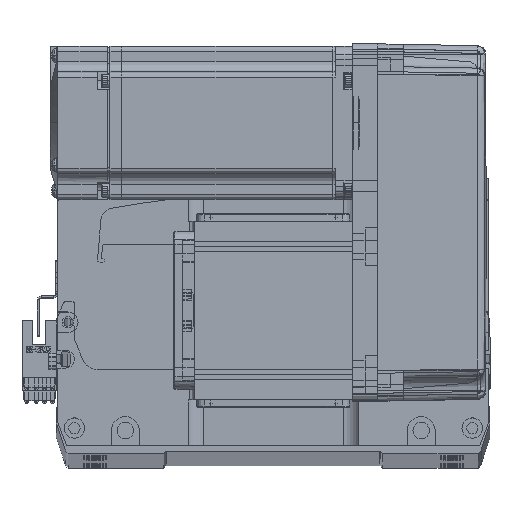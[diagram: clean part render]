
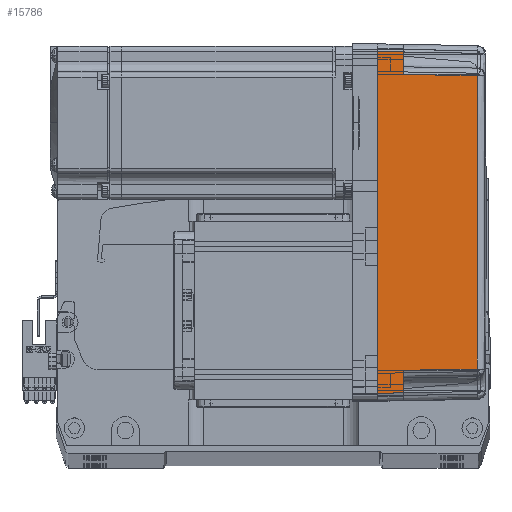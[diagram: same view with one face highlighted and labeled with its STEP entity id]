
A CAD part, top view. The second image highlights one B-rep face of the part: STEP entity #15786.
In plain terms, the highlighted planar face has unit normal (0.018, 0, 1) as drawn and (0, -1, 0.017) by its records, which use the part's own axes.
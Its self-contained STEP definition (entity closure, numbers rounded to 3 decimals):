
#1229 = VECTOR ( 'NONE', #16470, 1000. ) ;
#4217 = DIRECTION ( 'NONE',  ( -0.017, 0.017, 1. ) ) ;
#5841 = VECTOR ( 'NONE', #61634, 1000. ) ;
#6023 = CARTESIAN_POINT ( 'NONE',  ( 70., -35.825, 10. ) ) ;
#6129 = CARTESIAN_POINT ( 'NONE',  ( -57.495, -35.32, 38.985 ) ) ;
#6649 = EDGE_CURVE ( 'NONE', #69346, #47593, #7138, .T. ) ;
#6815 = LINE ( 'NONE', #25391, #44035 ) ;
#6838 = DIRECTION ( 'NONE',  ( -0.017, -0.017, -1. ) ) ;
#7138 = LINE ( 'NONE', #6129, #33931 ) ;
#7995 = FACE_OUTER_BOUND ( 'NONE', #10151, .T. ) ;
#8842 = EDGE_CURVE ( 'NONE', #18952, #46643, #25757, .T. ) ;
#9818 = DIRECTION ( 'NONE',  ( 0., -0.017, -1. ) ) ;
#10151 = EDGE_LOOP ( 'NONE', ( #27607, #33577, #43757, #28186, #68332, #31736, #59833, #13624 ) ) ;
#11106 = EDGE_CURVE ( 'NONE', #41783, #14207, #60091, .T. ) ;
#13624 = ORIENTED_EDGE ( 'NONE', *, *, #11106, .F. ) ;
#14207 = VERTEX_POINT ( 'NONE', #18953 ) ;
#14654 = CARTESIAN_POINT ( 'NONE',  ( 70., -36., 0. ) ) ;
#14749 = DIRECTION ( 'NONE',  ( -1., 0., 0. ) ) ;
#15375 = CARTESIAN_POINT ( 'NONE',  ( 66.826, -35.825, 10. ) ) ;
#15717 = CARTESIAN_POINT ( 'NONE',  ( -58., -35.825, 10. ) ) ;
#15786 = ADVANCED_FACE ( 'NONE', ( #7995 ), #59109, .T. ) ;
#16470 = DIRECTION ( 'NONE',  ( -1., 0., 0. ) ) ;
#17193 = VERTEX_POINT ( 'NONE', #64363 ) ;
#18363 = CARTESIAN_POINT ( 'NONE',  ( -57.495, -35.32, 38.985 ) ) ;
#18952 = VERTEX_POINT ( 'NONE', #15375 ) ;
#18953 = CARTESIAN_POINT ( 'NONE',  ( -67., -36., 0. ) ) ;
#20470 = CARTESIAN_POINT ( 'NONE',  ( -57.495, -35.32, 38.985 ) ) ;
#20873 = CARTESIAN_POINT ( 'NONE',  ( 58., -35.825, 10. ) ) ;
#24310 = VECTOR ( 'NONE', #46373, 1000. ) ;
#25391 = CARTESIAN_POINT ( 'NONE',  ( 70., -35.825, 10. ) ) ;
#25757 = LINE ( 'NONE', #6023, #5841 ) ;
#27607 = ORIENTED_EDGE ( 'NONE', *, *, #58511, .T. ) ;
#28186 = ORIENTED_EDGE ( 'NONE', *, *, #35837, .T. ) ;
#29410 = CARTESIAN_POINT ( 'NONE',  ( 19.165, -35.316, 39.181 ) ) ;
#31736 = ORIENTED_EDGE ( 'NONE', *, *, #38300, .T. ) ;
#32311 = AXIS2_PLACEMENT_3D ( 'NONE', #14654, #37624, #9818 ) ;
#33577 = ORIENTED_EDGE ( 'NONE', *, *, #8842, .T. ) ;
#33931 = VECTOR ( 'NONE', #6838, 1000. ) ;
#35837 = EDGE_CURVE ( 'NONE', #17193, #69346, #55356, .T. ) ;
#37341 = EDGE_CURVE ( 'NONE', #46643, #17193, #45980, .T. ) ;
#37624 = DIRECTION ( 'NONE',  ( 0., -1., 0.017 ) ) ;
#37852 = CARTESIAN_POINT ( 'NONE',  ( 67., -36., 0. ) ) ;
#38300 = EDGE_CURVE ( 'NONE', #47593, #55239, #6815, .T. ) ;
#40360 = CARTESIAN_POINT ( 'NONE',  ( 58., -35.825, 10. ) ) ;
#41783 = VERTEX_POINT ( 'NONE', #63962 ) ;
#41894 = CARTESIAN_POINT ( 'NONE',  ( -66.826, -35.825, 10. ) ) ;
#43694 = LINE ( 'NONE', #37852, #60108 ) ;
#43757 = ORIENTED_EDGE ( 'NONE', *, *, #37341, .T. ) ;
#44016 = CARTESIAN_POINT ( 'NONE',  ( 0., -36., 0. ) ) ;
#44035 = VECTOR ( 'NONE', #14749, 1000. ) ;
#45797 = EDGE_CURVE ( 'NONE', #14207, #55239, #71617, .T. ) ;
#45980 = LINE ( 'NONE', #40360, #24310 ) ;
#46169 = CARTESIAN_POINT ( 'NONE',  ( 57.495, -35.32, 38.985 ) ) ;
#46373 = DIRECTION ( 'NONE',  ( -0.017, 0.017, 1. ) ) ;
#46643 = VERTEX_POINT ( 'NONE', #20873 ) ;
#47593 = VERTEX_POINT ( 'NONE', #15717 ) ;
#50005 = CARTESIAN_POINT ( 'NONE',  ( -66.959, -35.958, 2.39 ) ) ;
#55239 = VERTEX_POINT ( 'NONE', #41894 ) ;
#55356 = B_SPLINE_CURVE_WITH_KNOTS ( 'NONE', 3,
 ( #46169, #29410, #68180, #18363 ),
 .UNSPECIFIED., .F., .F.,
 ( 4, 4 ),
 ( 0., 1. ),
 .UNSPECIFIED. ) ;
#56960 = VECTOR ( 'NONE', #61380, 1000. ) ;
#58511 = EDGE_CURVE ( 'NONE', #41783, #18952, #43694, .T. ) ;
#59109 = PLANE ( 'NONE',  #32311 ) ;
#59833 = ORIENTED_EDGE ( 'NONE', *, *, #45797, .F. ) ;
#60091 = LINE ( 'NONE', #44016, #1229 ) ;
#60108 = VECTOR ( 'NONE', #4217, 1000. ) ;
#61380 = DIRECTION ( 'NONE',  ( 0.017, 0.017, 1. ) ) ;
#61634 = DIRECTION ( 'NONE',  ( -1., 0., 0. ) ) ;
#63962 = CARTESIAN_POINT ( 'NONE',  ( 67., -36., 0. ) ) ;
#64363 = CARTESIAN_POINT ( 'NONE',  ( 57.495, -35.32, 38.985 ) ) ;
#68180 = CARTESIAN_POINT ( 'NONE',  ( -19.165, -35.316, 39.181 ) ) ;
#68332 = ORIENTED_EDGE ( 'NONE', *, *, #6649, .T. ) ;
#69346 = VERTEX_POINT ( 'NONE', #20470 ) ;
#71617 = LINE ( 'NONE', #50005, #56960 ) ;
